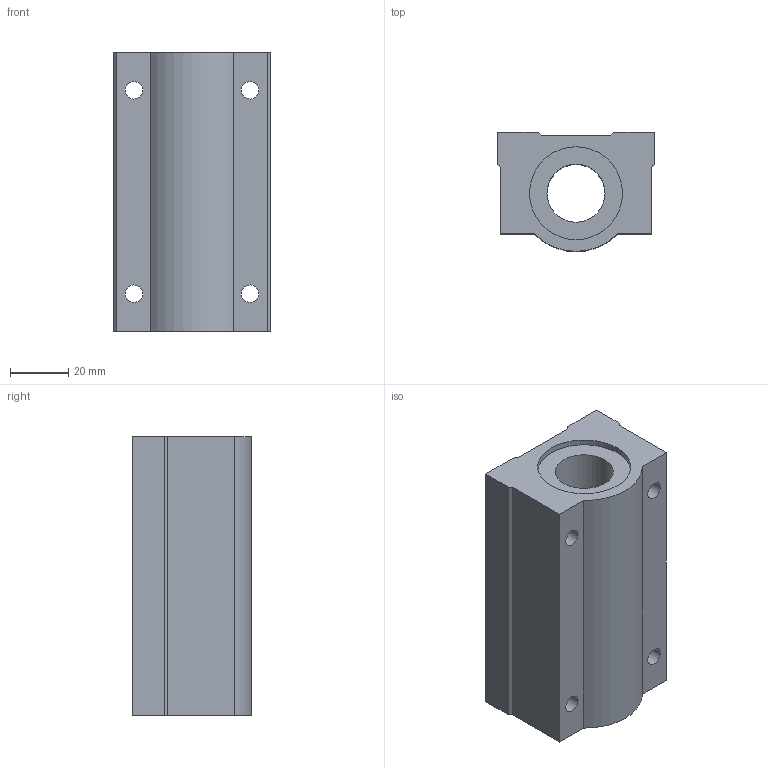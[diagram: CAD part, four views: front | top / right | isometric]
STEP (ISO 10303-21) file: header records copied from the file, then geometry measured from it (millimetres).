
FILE_DESCRIPTION((''),'2;1');
FILE_NAME('C:\Documents and Settings\ｿﾀﾀ蠑ｷ1\ｹﾙﾅﾁ ﾈｭｸ饅\ｺﾎﾇｰﾆﾄﾀﾏ\ﾁｦﾇｰ\SC__WUUN\SC20WUUN.stp','2005-06-22T11:01:56',('ｿﾀﾀ蠑ｷ1'),(''),'Autodesk Inventor 9','Autodesk Inventor 9','');
FILE_SCHEMA(('AUTOMOTIVE_DESIGN { 1 0 10303 214 1 1 1 1 }'));
Length unit declared in the file: millimetre
Products named in the file (1): SC__UUN
Bounding box: 54 x 41 x 96 mm (x, y, z)
Volume: 149797.5 mm3; surface area: 29206.2 mm2
Topology: 1 solids, 1 shells, 32 faces, 84 edges, 56 vertices
Faces by surface type: plane 17, bspline 8, cylinder 7
Entity records: 1145 total; most frequent: CARTESIAN_POINT 309, ORIENTED_EDGE 168, DIRECTION 164, EDGE_CURVE 84, VERTEX_POINT 56, AXIS2_PLACEMENT_3D 55, VECTOR 54, LINE 54
